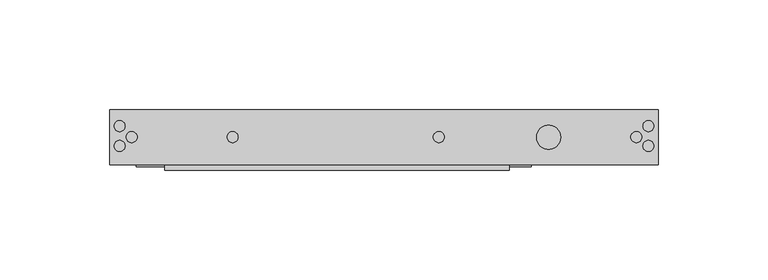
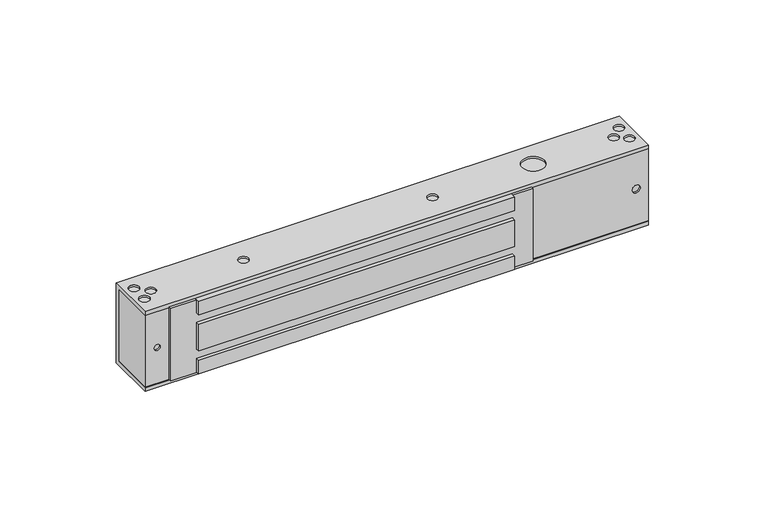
"""IFC4 building model written with IfcOpenShell, lengths in millimetres: proxy geometry, Электромагнитный_замок_ML-295АLN_с_герконом_AccordTec_R19 : Электромагнитный_замок_ML-295АLN_с_герконом_AccordTec_R19."""

from ifc_helpers import new_model, si_unit, frame, origin, place, context, project, spatial, polyline, circle_curve, outline, extrude, source, transform, mapped, element, save
from ifc_brep_helpers import plane_surface, revolved_surface, advanced_brep


def generic_models_6eb1532a(model_context):
    return source(origin(), model_context, "Body", "SolidModel", [
        extrude(outline(polyline([(182.0, -2.5), (25.0, -2.5), (25.0, 1.0), (182.0, 1.0), (182.0, -2.5)])), frame((0.0, 0.0, 33.0), z_axis=(0.0, 0.0, 1.0), x_axis=(1.0, 0.0, 0.0)), (0.0, 0.0, 1.0), 7.0),
        extrude(outline(polyline([(182.0, -2.5), (25.0, -2.5), (25.0, 1.0), (182.0, 1.0), (182.0, -2.5)])), frame((0.0, 0.0, 14.0), z_axis=(0.0, 0.0, 1.0), x_axis=(1.0, 0.0, 0.0)), (0.0, 0.0, 1.0), 14.0),
        extrude(outline(polyline([(182.0, -2.5), (25.0, -2.5), (25.0, 1.0), (182.0, 1.0), (182.0, -2.5)])), frame((0.0, 0.0, 2.0), z_axis=(0.0, 0.0, 1.0), x_axis=(1.0, 0.0, 0.0)), (0.0, 0.0, 1.0), 7.0),
        extrude(outline(polyline([(40.0, 12.0), (2.0, 12.0), (2.0, 25.0), (9.0, 25.0), (9.0, 182.0), (2.0, 182.0), (2.0, 192.0), (40.0, 192.0), (40.0, 182.0), (33.0, 182.0), (33.0, 25.0), (40.0, 25.0), (40.0, 12.0)]), holes=[polyline([(28.0, 25.0), (28.0, 182.0), (14.0, 182.0), (14.0, 25.0), (28.0, 25.0)])]), frame((0.0, -1.0, 0.0), z_axis=(0.0, 1.0, 0.0), x_axis=(0.0, 0.0, 1.0)), (0.0, 0.0, 1.0), 2.0),
        advanced_brep(
        [(250.0, 0.0, 40.0), (250.0, 23.0, 40.0), (250.0, 23.0, 2.0), (250.0, 0.0, 2.0), (250.0, 0.0, 0.0), (250.0, 25.0, 0.0), (250.0, 25.0, 42.0), (250.0, 0.0, 42.0), (0.0, 0.0, 40.0), (0.0, 0.0, 42.0), (0.0, 25.0, 42.0), (0.0, 25.0, 0.0), (0.0, 0.0, 0.0), (0.0, 0.0, 2.0), (0.0, 23.0, 2.0), (0.0, 23.0, 40.0), (192.0, 0.0, 40.0), (182.0, 0.0, 40.0), (25.0, 0.0, 40.0), (12.0, 0.0, 40.0), (12.0, 0.0, 2.0), (25.0, 0.0, 2.0), (182.0, 0.0, 2.0), (192.0, 0.0, 2.0), (4.5, 15.0, 0.0), (4.5, 20.0, 0.0), (10.0, 10.0, 0.0), (10.0, 15.0, 0.0), (4.5, 6.0, 0.0), (4.5, 11.0, 0.0), (56.0, 10.0, 0.0), (56.0, 15.0, 0.0), (200.0, 18.0, 0.0), (200.0, 7.0, 0.0), (213.0, 12.5, 0.0), (221.0, 12.5, 0.0), (240.0, 10.0, 0.0), (240.0, 15.0, 0.0), (245.5, 15.0, 0.0), (245.5, 20.0, 0.0), (245.5, 11.0, 0.0), (245.5, 6.0, 0.0), (150.0, 15.0, 0.0), (150.0, 10.0, 0.0), (2.0, 17.5, 42.0), (7.0, 17.5, 42.0), (7.5, 12.5, 42.0), (12.5, 12.5, 42.0), (2.0, 8.5, 42.0), (7.0, 8.5, 42.0), (53.5, 12.5, 42.0), (58.5, 12.5, 42.0), (147.5, 12.5, 42.0), (152.5, 12.5, 42.0), (194.5, 12.5, 42.0), (205.5, 12.5, 42.0), (237.5, 12.5, 42.0), (242.5, 12.5, 42.0), (243.0, 17.5, 42.0), (248.0, 17.5, 42.0), (243.0, 8.5, 42.0), (248.0, 8.5, 42.0), (2.0, 17.5, 41.0), (7.0, 17.5, 41.0), (7.5, 12.5, 41.0), (12.5, 12.5, 41.0), (2.0, 8.5, 41.0), (7.0, 8.5, 41.0), (53.5, 12.5, 41.0), (58.5, 12.5, 41.0), (147.5, 12.5, 41.0), (152.5, 12.5, 41.0), (194.5, 12.5, 41.0), (205.5, 12.5, 41.0), (237.5, 12.5, 41.0), (242.5, 12.5, 41.0), (243.0, 17.5, 41.0), (248.0, 17.5, 41.0), (243.0, 8.5, 41.0), (248.0, 8.5, 41.0), (4.5, 15.0, 1.0), (4.5, 20.0, 1.0), (10.0, 10.0, 1.0), (10.0, 15.0, 1.0), (4.5, 6.0, 1.0), (4.5, 11.0, 1.0), (56.0, 10.0, 1.0), (56.0, 15.0, 1.0), (200.0, 18.0, 1.0), (200.0, 7.0, 1.0), (213.0, 12.5, 1.0), (221.0, 12.5, 1.0), (240.0, 10.0, 1.0), (240.0, 15.0, 1.0), (245.5, 15.0, 1.0), (245.5, 20.0, 1.0), (245.5, 11.0, 1.0), (245.5, 6.0, 1.0), (150.0, 15.0, 1.0), (150.0, 10.0, 1.0)],
        [
            (0, 1),
            (1, 2),
            (2, 3),
            (3, 4),
            (4, 5),
            (5, 6),
            (6, 7),
            (7, 0),
            (8, 9),
            (9, 10),
            (10, 11),
            (11, 12),
            (12, 13),
            (13, 14),
            (14, 15),
            (15, 8),
            (0, 16),
            (16, 17),
            (17, 18),
            (18, 19),
            (19, 8),
            (15, 1),
            (14, 2),
            (13, 20),
            (20, 21),
            (21, 22),
            (22, 23),
            (23, 3),
            (12, 4),
            (11, 5),
            (24, 25, circle_curve(frame((4.5, 17.5, 0.0), z_axis=(0.0, 0.0, 1.0), x_axis=(0.0, -1.0, 0.0)), 2.5)),
            (25, 24, circle_curve(frame((4.5, 17.5, 0.0), z_axis=(0.0, 0.0, 1.0), x_axis=(0.0, -1.0, 0.0)), 2.5)),
            (26, 27, circle_curve(frame((10.0, 12.5, 0.0), z_axis=(0.0, 0.0, 1.0), x_axis=(0.0, -1.0, 0.0)), 2.5)),
            (27, 26, circle_curve(frame((10.0, 12.5, 0.0), z_axis=(0.0, 0.0, 1.0), x_axis=(0.0, -1.0, 0.0)), 2.5)),
            (28, 29, circle_curve(frame((4.5, 8.5, 0.0), z_axis=(0.0, 0.0, 1.0), x_axis=(0.0, -1.0, 0.0)), 2.5)),
            (29, 28, circle_curve(frame((4.5, 8.5, 0.0), z_axis=(0.0, 0.0, 1.0), x_axis=(0.0, -1.0, 0.0)), 2.5)),
            (30, 31, circle_curve(frame((56.0, 12.5, 0.0), z_axis=(0.0, 0.0, 1.0), x_axis=(0.0, -1.0, 0.0)), 2.5)),
            (31, 30, circle_curve(frame((56.0, 12.5, 0.0), z_axis=(0.0, 0.0, 1.0), x_axis=(0.0, -1.0, 0.0)), 2.5)),
            (32, 33, circle_curve(frame((200.0, 12.5, 0.0), z_axis=(0.0, 0.0, 1.0), x_axis=(0.0, -1.0, 0.0)), 5.5)),
            (33, 32, circle_curve(frame((200.0, 12.5, 0.0), z_axis=(0.0, 0.0, 1.0), x_axis=(0.0, -1.0, 0.0)), 5.5)),
            (34, 35, circle_curve(frame((217.0, 12.5, 0.0), z_axis=(0.0, 0.0, 1.0), x_axis=(1.0, 0.0, 0.0)), 4.0)),
            (35, 34, circle_curve(frame((217.0, 12.5, 0.0), z_axis=(0.0, 0.0, 1.0), x_axis=(1.0, 0.0, 0.0)), 4.0)),
            (36, 37, circle_curve(frame((240.0, 12.5, 0.0), z_axis=(0.0, 0.0, 1.0), x_axis=(0.0, -1.0, 0.0)), 2.5)),
            (37, 36, circle_curve(frame((240.0, 12.5, 0.0), z_axis=(0.0, 0.0, 1.0), x_axis=(0.0, -1.0, 0.0)), 2.5)),
            (38, 39, circle_curve(frame((245.5, 17.5, 0.0), z_axis=(0.0, 0.0, 1.0), x_axis=(0.0, -1.0, 0.0)), 2.5)),
            (39, 38, circle_curve(frame((245.5, 17.5, 0.0), z_axis=(0.0, 0.0, 1.0), x_axis=(0.0, -1.0, 0.0)), 2.5)),
            (40, 41, circle_curve(frame((245.5, 8.5, 0.0), z_axis=(0.0, 0.0, 1.0), x_axis=(0.0, -1.0, 0.0)), 2.5)),
            (41, 40, circle_curve(frame((245.5, 8.5, 0.0), z_axis=(0.0, 0.0, 1.0), x_axis=(0.0, -1.0, 0.0)), 2.5)),
            (42, 43, circle_curve(frame((150.0, 12.5, 0.0), z_axis=(0.0, 0.0, 1.0), x_axis=(0.0, -1.0, 0.0)), 2.5)),
            (43, 42, circle_curve(frame((150.0, 12.5, 0.0), z_axis=(0.0, 0.0, 1.0), x_axis=(0.0, -1.0, 0.0)), 2.5)),
            (10, 6),
            (9, 7),
            (44, 45, circle_curve(frame((4.5, 17.5, 42.0), z_axis=(0.0, 0.0, -1.0), x_axis=(1.0, 0.0, 0.0)), 2.5)),
            (45, 44, circle_curve(frame((4.5, 17.5, 42.0), z_axis=(0.0, 0.0, -1.0), x_axis=(1.0, 0.0, 0.0)), 2.5)),
            (46, 47, circle_curve(frame((10.0, 12.5, 42.0), z_axis=(0.0, 0.0, -1.0), x_axis=(1.0, 0.0, 0.0)), 2.5)),
            (47, 46, circle_curve(frame((10.0, 12.5, 42.0), z_axis=(0.0, 0.0, -1.0), x_axis=(1.0, 0.0, 0.0)), 2.5)),
            (48, 49, circle_curve(frame((4.5, 8.5, 42.0), z_axis=(0.0, 0.0, -1.0), x_axis=(1.0, 0.0, 0.0)), 2.5)),
            (49, 48, circle_curve(frame((4.5, 8.5, 42.0), z_axis=(0.0, 0.0, -1.0), x_axis=(1.0, 0.0, 0.0)), 2.5)),
            (50, 51, circle_curve(frame((56.0, 12.5, 42.0), z_axis=(0.0, 0.0, -1.0), x_axis=(1.0, 0.0, 0.0)), 2.5)),
            (51, 50, circle_curve(frame((56.0, 12.5, 42.0), z_axis=(0.0, 0.0, -1.0), x_axis=(1.0, 0.0, 0.0)), 2.5)),
            (52, 53, circle_curve(frame((150.0, 12.5, 42.0), z_axis=(0.0, 0.0, -1.0), x_axis=(1.0, 0.0, 0.0)), 2.5)),
            (53, 52, circle_curve(frame((150.0, 12.5, 42.0), z_axis=(0.0, 0.0, -1.0), x_axis=(1.0, 0.0, 0.0)), 2.5)),
            (54, 55, circle_curve(frame((200.0, 12.5, 42.0), z_axis=(0.0, 0.0, -1.0), x_axis=(1.0, 0.0, 0.0)), 5.5)),
            (55, 54, circle_curve(frame((200.0, 12.5, 42.0), z_axis=(0.0, 0.0, -1.0), x_axis=(1.0, 0.0, 0.0)), 5.5)),
            (56, 57, circle_curve(frame((240.0, 12.5, 42.0), z_axis=(0.0, 0.0, -1.0), x_axis=(1.0, 0.0, 0.0)), 2.5)),
            (57, 56, circle_curve(frame((240.0, 12.5, 42.0), z_axis=(0.0, 0.0, -1.0), x_axis=(1.0, 0.0, 0.0)), 2.5)),
            (58, 59, circle_curve(frame((245.5, 17.5, 42.0), z_axis=(0.0, 0.0, -1.0), x_axis=(1.0, 0.0, 0.0)), 2.5)),
            (59, 58, circle_curve(frame((245.5, 17.5, 42.0), z_axis=(0.0, 0.0, -1.0), x_axis=(1.0, 0.0, 0.0)), 2.5)),
            (60, 61, circle_curve(frame((245.5, 8.5, 42.0), z_axis=(0.0, 0.0, -1.0), x_axis=(1.0, 0.0, 0.0)), 2.5)),
            (61, 60, circle_curve(frame((245.5, 8.5, 42.0), z_axis=(0.0, 0.0, -1.0), x_axis=(1.0, 0.0, 0.0)), 2.5)),
            (62, 63, circle_curve(frame((4.5, 17.5, 41.0), z_axis=(0.0, 0.0, 1.0), x_axis=(1.0, 0.0, 0.0)), 2.5)),
            (63, 62, circle_curve(frame((4.5, 17.5, 41.0), z_axis=(0.0, 0.0, 1.0), x_axis=(1.0, 0.0, 0.0)), 2.5)),
            (64, 65, circle_curve(frame((10.0, 12.5, 41.0), z_axis=(0.0, 0.0, 1.0), x_axis=(1.0, 0.0, 0.0)), 2.5)),
            (65, 64, circle_curve(frame((10.0, 12.5, 41.0), z_axis=(0.0, 0.0, 1.0), x_axis=(1.0, 0.0, 0.0)), 2.5)),
            (66, 67, circle_curve(frame((4.5, 8.5, 41.0), z_axis=(0.0, 0.0, 1.0), x_axis=(1.0, 0.0, 0.0)), 2.5)),
            (67, 66, circle_curve(frame((4.5, 8.5, 41.0), z_axis=(0.0, 0.0, 1.0), x_axis=(1.0, 0.0, 0.0)), 2.5)),
            (68, 69, circle_curve(frame((56.0, 12.5, 41.0), z_axis=(0.0, 0.0, 1.0), x_axis=(1.0, 0.0, 0.0)), 2.5)),
            (69, 68, circle_curve(frame((56.0, 12.5, 41.0), z_axis=(0.0, 0.0, 1.0), x_axis=(1.0, 0.0, 0.0)), 2.5)),
            (70, 71, circle_curve(frame((150.0, 12.5, 41.0), z_axis=(0.0, 0.0, 1.0), x_axis=(1.0, 0.0, 0.0)), 2.5)),
            (71, 70, circle_curve(frame((150.0, 12.5, 41.0), z_axis=(0.0, 0.0, 1.0), x_axis=(1.0, 0.0, 0.0)), 2.5)),
            (72, 73, circle_curve(frame((200.0, 12.5, 41.0), z_axis=(0.0, 0.0, 1.0), x_axis=(1.0, 0.0, 0.0)), 5.5)),
            (73, 72, circle_curve(frame((200.0, 12.5, 41.0), z_axis=(0.0, 0.0, 1.0), x_axis=(1.0, 0.0, 0.0)), 5.5)),
            (74, 75, circle_curve(frame((240.0, 12.5, 41.0), z_axis=(0.0, 0.0, 1.0), x_axis=(1.0, 0.0, 0.0)), 2.5)),
            (75, 74, circle_curve(frame((240.0, 12.5, 41.0), z_axis=(0.0, 0.0, 1.0), x_axis=(1.0, 0.0, 0.0)), 2.5)),
            (76, 77, circle_curve(frame((245.5, 17.5, 41.0), z_axis=(0.0, 0.0, 1.0), x_axis=(1.0, 0.0, 0.0)), 2.5)),
            (77, 76, circle_curve(frame((245.5, 17.5, 41.0), z_axis=(0.0, 0.0, 1.0), x_axis=(1.0, 0.0, 0.0)), 2.5)),
            (78, 79, circle_curve(frame((245.5, 8.5, 41.0), z_axis=(0.0, 0.0, 1.0), x_axis=(1.0, 0.0, 0.0)), 2.5)),
            (79, 78, circle_curve(frame((245.5, 8.5, 41.0), z_axis=(0.0, 0.0, 1.0), x_axis=(1.0, 0.0, 0.0)), 2.5)),
            (63, 45),
            (44, 62),
            (65, 47),
            (46, 64),
            (67, 49),
            (48, 66),
            (69, 51),
            (50, 68),
            (71, 53),
            (52, 70),
            (73, 55),
            (54, 72),
            (75, 57),
            (56, 74),
            (77, 59),
            (58, 76),
            (79, 61),
            (60, 78),
            (80, 81, circle_curve(frame((4.5, 17.5, 1.0), z_axis=(0.0, 0.0, -1.0), x_axis=(0.0, -1.0, 0.0)), 2.5)),
            (81, 80, circle_curve(frame((4.5, 17.5, 1.0), z_axis=(0.0, 0.0, -1.0), x_axis=(0.0, -1.0, 0.0)), 2.5)),
            (82, 83, circle_curve(frame((10.0, 12.5, 1.0), z_axis=(0.0, 0.0, -1.0), x_axis=(0.0, -1.0, 0.0)), 2.5)),
            (83, 82, circle_curve(frame((10.0, 12.5, 1.0), z_axis=(0.0, 0.0, -1.0), x_axis=(0.0, -1.0, 0.0)), 2.5)),
            (84, 85, circle_curve(frame((4.5, 8.5, 1.0), z_axis=(0.0, 0.0, -1.0), x_axis=(0.0, -1.0, 0.0)), 2.5)),
            (85, 84, circle_curve(frame((4.5, 8.5, 1.0), z_axis=(0.0, 0.0, -1.0), x_axis=(0.0, -1.0, 0.0)), 2.5)),
            (86, 87, circle_curve(frame((56.0, 12.5, 1.0), z_axis=(0.0, 0.0, -1.0), x_axis=(0.0, -1.0, 0.0)), 2.5)),
            (87, 86, circle_curve(frame((56.0, 12.5, 1.0), z_axis=(0.0, 0.0, -1.0), x_axis=(0.0, -1.0, 0.0)), 2.5)),
            (88, 89, circle_curve(frame((200.0, 12.5, 1.0), z_axis=(0.0, 0.0, -1.0), x_axis=(0.0, -1.0, 0.0)), 5.5)),
            (89, 88, circle_curve(frame((200.0, 12.5, 1.0), z_axis=(0.0, 0.0, -1.0), x_axis=(0.0, -1.0, 0.0)), 5.5)),
            (90, 91, circle_curve(frame((217.0, 12.5, 1.0), z_axis=(0.0, 0.0, -1.0), x_axis=(1.0, 0.0, 0.0)), 4.0)),
            (91, 90, circle_curve(frame((217.0, 12.5, 1.0), z_axis=(0.0, 0.0, -1.0), x_axis=(1.0, 0.0, 0.0)), 4.0)),
            (92, 93, circle_curve(frame((240.0, 12.5, 1.0), z_axis=(0.0, 0.0, -1.0), x_axis=(0.0, -1.0, 0.0)), 2.5)),
            (93, 92, circle_curve(frame((240.0, 12.5, 1.0), z_axis=(0.0, 0.0, -1.0), x_axis=(0.0, -1.0, 0.0)), 2.5)),
            (94, 95, circle_curve(frame((245.5, 17.5, 1.0), z_axis=(0.0, 0.0, -1.0), x_axis=(0.0, -1.0, 0.0)), 2.5)),
            (95, 94, circle_curve(frame((245.5, 17.5, 1.0), z_axis=(0.0, 0.0, -1.0), x_axis=(0.0, -1.0, 0.0)), 2.5)),
            (96, 97, circle_curve(frame((245.5, 8.5, 1.0), z_axis=(0.0, 0.0, -1.0), x_axis=(0.0, -1.0, 0.0)), 2.5)),
            (97, 96, circle_curve(frame((245.5, 8.5, 1.0), z_axis=(0.0, 0.0, -1.0), x_axis=(0.0, -1.0, 0.0)), 2.5)),
            (98, 99, circle_curve(frame((150.0, 12.5, 1.0), z_axis=(0.0, 0.0, -1.0), x_axis=(0.0, -1.0, 0.0)), 2.5)),
            (99, 98, circle_curve(frame((150.0, 12.5, 1.0), z_axis=(0.0, 0.0, -1.0), x_axis=(0.0, -1.0, 0.0)), 2.5)),
            (81, 25),
            (24, 80),
            (83, 27),
            (26, 82),
            (85, 29),
            (28, 84),
            (87, 31),
            (30, 86),
            (89, 33),
            (32, 88),
            (91, 35),
            (34, 90),
            (93, 37),
            (36, 92),
            (95, 39),
            (38, 94),
            (97, 41),
            (40, 96),
            (99, 43),
            (42, 98),
        ],
        [
            plane_surface(frame((250.0, 0.0, 40.0), z_axis=(1.0, 0.0, 0.0), x_axis=(0.0, 1.0, 0.0))),
            plane_surface(frame((0.0, 0.0, 40.0), z_axis=(-1.0, 0.0, 0.0), x_axis=(0.0, -1.0, 0.0))),
            plane_surface(frame((250.0, 0.0, 40.0), z_axis=(0.0, 0.0, -1.0), x_axis=(-1.0, 0.0, 0.0))),
            plane_surface(frame((250.0, 23.0, 40.0), z_axis=(0.0, -1.0, 0.0), x_axis=(-1.0, 0.0, 0.0))),
            plane_surface(frame((250.0, 23.0, 2.0), z_axis=(0.0, 0.0, 1.0), x_axis=(-1.0, 0.0, 0.0))),
            plane_surface(frame((250.0, 0.0, 2.0), z_axis=(0.0, -1.0, 0.0), x_axis=(-1.0, 0.0, 0.0))),
            plane_surface(frame((250.0, 0.0, 0.0), z_axis=(0.0, 0.0, -1.0), x_axis=(-1.0, 0.0, 0.0))),
            plane_surface(frame((250.0, 25.0, 0.0), z_axis=(0.0, 1.0, 0.0), x_axis=(-1.0, 0.0, 0.0))),
            plane_surface(frame((250.0, 25.0, 42.0), z_axis=(0.0, 0.0, 1.0), x_axis=(-1.0, 0.0, 0.0))),
            plane_surface(frame((250.0, 0.0, 42.0), z_axis=(0.0, -1.0, 0.0), x_axis=(-1.0, 0.0, 0.0))),
            plane_surface(frame((7.0, 17.5, 41.0), z_axis=(0.0, 0.0, 1.0), x_axis=(0.0, -1.0, 0.0))),
            revolved_surface(polyline([(7.0, 17.5, 41.0), (7.0, 17.5, 42.0)]), (4.5, 17.5, 43.0), (0.0, 0.0, -1.0)),
            revolved_surface(polyline([(12.5, 12.5, 41.0), (12.5, 12.5, 42.0)]), (10.0, 12.5, 42.0), (0.0, 0.0, -1.0)),
            revolved_surface(polyline([(7.0, 8.5, 41.0), (7.0, 8.5, 42.0)]), (4.5, 8.5, 42.0), (0.0, 0.0, -1.0)),
            revolved_surface(polyline([(58.5, 12.5, 41.0), (58.5, 12.5, 42.0)]), (56.0, 12.5, 42.0), (0.0, 0.0, -1.0)),
            revolved_surface(polyline([(152.5, 12.5, 41.0), (152.5, 12.5, 42.0)]), (150.0, 12.5, 42.0), (0.0, 0.0, -1.0)),
            revolved_surface(polyline([(205.5, 12.5, 41.0), (205.5, 12.5, 42.0)]), (200.0, 12.5, 42.0), (0.0, 0.0, -1.0)),
            revolved_surface(polyline([(242.5, 12.5, 41.0), (242.5, 12.5, 42.0)]), (240.0, 12.5, 42.0), (0.0, 0.0, -1.0)),
            revolved_surface(polyline([(248.0, 17.5, 41.0), (248.0, 17.5, 42.0)]), (245.5, 17.5, 42.0), (0.0, 0.0, -1.0)),
            revolved_surface(polyline([(248.0, 8.5, 41.0), (248.0, 8.5, 42.0)]), (245.5, 8.5, 42.0), (0.0, 0.0, -1.0)),
            plane_surface(frame((4.5, 15.0, 1.0), z_axis=(0.0, 0.0, -1.0), x_axis=(1.0, 0.0, 0.0))),
            revolved_surface(polyline([(4.5, 15.0, 1.0), (4.5, 15.0, 0.0)]), (4.5, 17.5, -1.0), (0.0, 0.0, 1.0)),
            revolved_surface(polyline([(10.0, 10.0, 1.0), (10.0, 10.0, 0.0)]), (10.0, 12.5, 0.0), (0.0, 0.0, 1.0)),
            revolved_surface(polyline([(4.5, 6.0, 1.0), (4.5, 6.0, 0.0)]), (4.5, 8.5, 0.0), (0.0, 0.0, 1.0)),
            revolved_surface(polyline([(56.0, 10.0, 1.0), (56.0, 10.0, 0.0)]), (56.0, 12.5, 0.0), (0.0, 0.0, 1.0)),
            revolved_surface(polyline([(200.0, 7.0, 1.0), (200.0, 7.0, 0.0)]), (200.0, 12.5, 0.0), (0.0, 0.0, 1.0)),
            revolved_surface(polyline([(221.0, 12.5, 1.0), (221.0, 12.5, 0.0)]), (217.0, 12.5, 0.0), (0.0, 0.0, 1.0)),
            revolved_surface(polyline([(240.0, 10.0, 1.0), (240.0, 10.0, 0.0)]), (240.0, 12.5, 0.0), (0.0, 0.0, 1.0)),
            revolved_surface(polyline([(245.5, 15.0, 1.0), (245.5, 15.0, 0.0)]), (245.5, 17.5, 0.0), (0.0, 0.0, 1.0)),
            revolved_surface(polyline([(245.5, 6.0, 1.0), (245.5, 6.0, 0.0)]), (245.5, 8.5, 0.0), (0.0, 0.0, 1.0)),
            revolved_surface(polyline([(150.0, 10.0, 1.0), (150.0, 10.0, 0.0)]), (150.0, 12.5, 0.0), (0.0, 0.0, 1.0)),
        ],
        [
            (0, [[1, 2, 3, 4, 5, 6, 7, 8]]),
            (1, [[9, 10, 11, 12, 13, 14, 15, 16]]),
            (2, [[-1, 17, 18, 19, 20, 21, -16, 22]]),
            (3, [[-2, -22, -15, 23]]),
            (4, [[-3, -23, -14, 24, 25, 26, 27, 28]]),
            (5, [[-4, -28, -27, -26, -25, -24, -13, 29]]),
            (6, [[-5, -29, -12, 30], [31, 32], [33, 34], [35, 36], [37, 38], [39, 40], [41, 42], [43, 44], [45, 46], [47, 48], [49, 50]]),
            (7, [[-6, -30, -11, 51]]),
            (8, [[-7, -51, -10, 52], [53, 54], [55, 56], [57, 58], [59, 60], [61, 62], [63, 64], [65, 66], [67, 68], [69, 70]]),
            (9, [[-8, -52, -9, -21, -20, -19, -18, -17]]),
            (10, [[71, 72]]),
            (10, [[73, 74]]),
            (10, [[75, 76]]),
            (10, [[77, 78]]),
            (10, [[79, 80]]),
            (10, [[81, 82]]),
            (10, [[83, 84]]),
            (10, [[85, 86]]),
            (10, [[87, 88]]),
            (11, [[-72, 89, -53, 90]]),
            (11, [[-71, -90, -54, -89]]),
            (12, [[-74, 91, -55, 92]]),
            (12, [[-73, -92, -56, -91]]),
            (13, [[-76, 93, -57, 94]]),
            (13, [[-75, -94, -58, -93]]),
            (14, [[-78, 95, -59, 96]]),
            (14, [[-77, -96, -60, -95]]),
            (15, [[-80, 97, -61, 98]]),
            (15, [[-79, -98, -62, -97]]),
            (16, [[-82, 99, -63, 100]]),
            (16, [[-81, -100, -64, -99]]),
            (17, [[-84, 101, -65, 102]]),
            (17, [[-83, -102, -66, -101]]),
            (18, [[-86, 103, -67, 104]]),
            (18, [[-85, -104, -68, -103]]),
            (19, [[-88, 105, -69, 106]]),
            (19, [[-87, -106, -70, -105]]),
            (20, [[107, 108]]),
            (20, [[109, 110]]),
            (20, [[111, 112]]),
            (20, [[113, 114]]),
            (20, [[115, 116]]),
            (20, [[117, 118]]),
            (20, [[119, 120]]),
            (20, [[121, 122]]),
            (20, [[123, 124]]),
            (20, [[125, 126]]),
            (21, [[-108, 127, -31, 128]]),
            (21, [[-107, -128, -32, -127]]),
            (22, [[-110, 129, -33, 130]]),
            (22, [[-109, -130, -34, -129]]),
            (23, [[-112, 131, -35, 132]]),
            (23, [[-111, -132, -36, -131]]),
            (24, [[-114, 133, -37, 134]]),
            (24, [[-113, -134, -38, -133]]),
            (25, [[-116, 135, -39, 136]]),
            (25, [[-115, -136, -40, -135]]),
            (26, [[-118, 137, -41, 138]]),
            (26, [[-117, -138, -42, -137]]),
            (27, [[-120, 139, -43, 140]]),
            (27, [[-119, -140, -44, -139]]),
            (28, [[-122, 141, -45, 142]]),
            (28, [[-121, -142, -46, -141]]),
            (29, [[-124, 143, -47, 144]]),
            (29, [[-123, -144, -48, -143]]),
            (30, [[-126, 145, -49, 146]]),
            (30, [[-125, -146, -50, -145]]),
        ],
    ),
        advanced_brep(
        [(0.0, 0.0, 2.0), (0.0, 0.0, 40.0), (0.0, 23.0, 40.0), (0.0, 23.0, 2.0), (12.0, 0.0, 2.0), (12.0, 0.0, 40.0), (7.5, 0.0, 21.0), (4.5, 0.0, 21.0), (250.0, 0.0, 2.0), (250.0, 0.0, 40.0), (192.0, 0.0, 40.0), (192.0, 0.0, 2.0), (246.0, 0.0, 21.0), (242.0, 0.0, 21.0), (250.0, 23.0, 2.0), (250.0, 23.0, 40.0), (12.0, 1.0, 40.0), (25.0, 1.0, 40.0), (182.0, 1.0, 40.0), (192.0, 1.0, 40.0), (192.0, 1.0, 2.0), (182.0, 1.0, 2.0), (25.0, 1.0, 2.0), (12.0, 1.0, 2.0), (4.5, 1.0, 21.0), (7.5, 1.0, 21.0), (242.0, 1.0, 21.0), (246.0, 1.0, 21.0)],
        [
            (0, 1),
            (1, 2),
            (2, 3),
            (3, 0),
            (0, 4),
            (4, 5),
            (5, 1),
            (6, 7, circle_curve(frame((6.0, 0.0, 21.0), z_axis=(0.0, 1.0, 0.0), x_axis=(1.0, 0.0, 0.0)), 1.5)),
            (7, 6, circle_curve(frame((6.0, 0.0, 21.0), z_axis=(0.0, 1.0, 0.0), x_axis=(1.0, 0.0, 0.0)), 1.5)),
            (8, 9),
            (9, 10),
            (10, 11),
            (11, 8),
            (12, 13, circle_curve(frame((244.0, 0.0, 21.0), z_axis=(0.0, 1.0, 0.0), x_axis=(1.0, 0.0, 0.0)), 2.0)),
            (13, 12, circle_curve(frame((244.0, 0.0, 21.0), z_axis=(0.0, 1.0, 0.0), x_axis=(1.0, 0.0, 0.0)), 2.0)),
            (8, 14),
            (14, 15),
            (15, 9),
            (15, 2),
            (5, 16),
            (16, 17),
            (17, 18),
            (18, 19),
            (19, 10),
            (14, 3),
            (11, 20),
            (20, 21),
            (21, 22),
            (22, 23),
            (23, 4),
            (24, 25, circle_curve(frame((6.0, 1.0, 21.0), z_axis=(0.0, -1.0, 0.0), x_axis=(1.0, 0.0, 0.0)), 1.5)),
            (25, 24, circle_curve(frame((6.0, 1.0, 21.0), z_axis=(0.0, -1.0, 0.0), x_axis=(1.0, 0.0, 0.0)), 1.5)),
            (16, 23),
            (20, 19),
            (26, 27, circle_curve(frame((244.0, 1.0, 21.0), z_axis=(0.0, -1.0, 0.0), x_axis=(1.0, 0.0, 0.0)), 2.0)),
            (27, 26, circle_curve(frame((244.0, 1.0, 21.0), z_axis=(0.0, -1.0, 0.0), x_axis=(1.0, 0.0, 0.0)), 2.0)),
            (24, 7),
            (6, 25),
            (26, 13),
            (12, 27),
        ],
        [
            plane_surface(frame((0.0, 25.0, 42.0), z_axis=(-1.0, 0.0, 0.0), x_axis=(0.0, 0.0, -1.0))),
            plane_surface(frame((0.0, 0.0, 42.0), z_axis=(0.0, -1.0, 0.0), x_axis=(0.0, 0.0, -1.0))),
            plane_surface(frame((250.0, 0.0, 42.0), z_axis=(1.0, 0.0, 0.0), x_axis=(0.0, 0.0, -1.0))),
            plane_surface(frame((250.0, 0.0, 40.0), z_axis=(0.0, 0.0, 1.0), x_axis=(-1.0, 0.0, 0.0))),
            plane_surface(frame((250.0, 23.0, 40.0), z_axis=(0.0, 1.0, 0.0), x_axis=(-1.0, 0.0, 0.0))),
            plane_surface(frame((250.0, 23.0, 2.0), z_axis=(0.0, 0.0, -1.0), x_axis=(-1.0, 0.0, 0.0))),
            plane_surface(frame((7.5, 1.0, 21.0), z_axis=(0.0, -1.0, 0.0), x_axis=(0.0, 0.0, -1.0))),
            revolved_surface(polyline([(7.5, 0.0, 21.0), (7.5, 1.0, 21.0)]), (6.0, 1.0, 21.0), (0.0, -1.0, 0.0)),
            plane_surface(frame((12.0, -1.0, 40.0), z_axis=(1.0, 0.0, 0.0), x_axis=(0.0, 1.0, 0.0))),
            plane_surface(frame((192.0, -1.0, 2.0), z_axis=(-1.0, 0.0, 0.0), x_axis=(0.0, 1.0, 0.0))),
            revolved_surface(polyline([(246.0, 0.0, 21.0), (246.0, 1.0, 21.0)]), (244.0, 0.0, 21.0), (0.0, -1.0, 0.0)),
        ],
        [
            (0, [[1, 2, 3, 4]]),
            (1, [[-1, 5, 6, 7], [8, 9]]),
            (1, [[10, 11, 12, 13], [14, 15]]),
            (2, [[-10, 16, 17, 18]]),
            (3, [[19, -2, -7, 20, 21, 22, 23, 24, -11, -18]]),
            (4, [[-19, -17, 25, -3]]),
            (5, [[-25, -16, -13, 26, 27, 28, 29, 30, -5, -4]]),
            (6, [[31, 32]]),
            (6, [[33, -29, -28, -27, 34, -23, -22, -21]]),
            (6, [[35, 36]]),
            (7, [[-31, 37, -8, 38]]),
            (7, [[-32, -38, -9, -37]]),
            (8, [[-33, -20, -6, -30]]),
            (9, [[-34, -26, -12, -24]]),
            (10, [[-35, 39, -14, 40]]),
            (10, [[-36, -40, -15, -39]]),
        ],
    ),
    ])


if __name__ == "__main__":
    model = new_model("IFC4")
    model_context = context("Model", 3, world=origin())
    ifc_project = project(units=[si_unit("LENGTHUNIT", "METRE", prefix="MILLI")], contexts=[model_context])
    site = spatial("IfcSite", under=ifc_project)
    building = spatial("IfcBuilding", under=site)
    placement = place(None, origin())
    generic_models_shape = generic_models_6eb1532a(model_context)
    element("IfcBuildingElementProxy", 1, Name="Электромагнитный_замок_ML-295АLN_с_герконом_AccordTec_R19 : Электромагнитный_замок_ML-295АLN_с_герконом_AccordTec_R19", ObjectType="Электромагнитный_замок_ML-295АLN_с_герконом_AccordTec_R19 : Электромагнитный_замок_ML-295АLN_с_герконом_AccordTec_R19", at=placement, inside=building, context=model_context, shape_type="MappedRepresentation", body=[
        mapped(generic_models_shape, transform((0.0, 0.0, 0.0), x_axis=(1.0, 0.0, 0.0), y_axis=(0.0, 1.0, 0.0), z_axis=(0.0, 0.0, 1.0))),
    ])
    save(model, "model.ifc")
